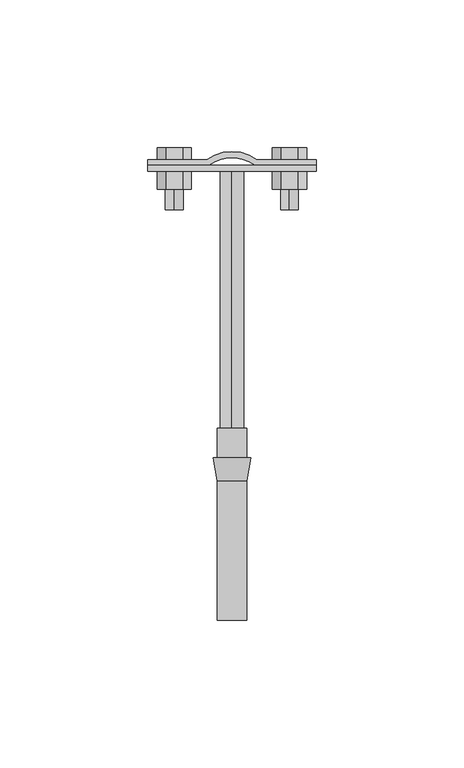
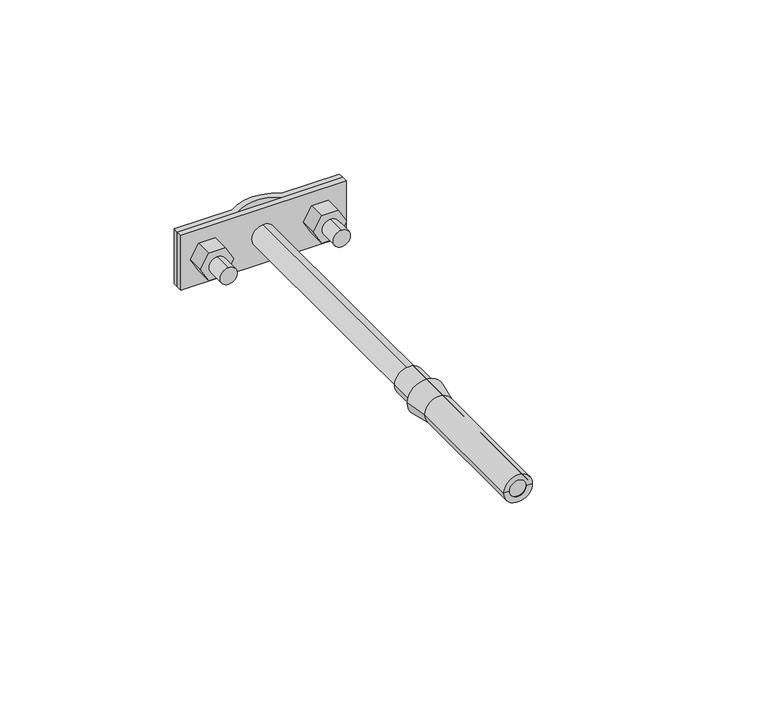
"""IFC4 building model written with IfcOpenShell, lengths in millimetres: proxy geometry, КНС_ДержательФасадный_DKC : ND2305_Горячеоцинкованная сталь_160 мм."""

from ifc_helpers import new_model, si_unit, point, frame, frame_2d, origin, origin_2d, place, context, project, spatial, polyline, circle_curve, trimmed, segment, composite_curve, outline, extrude, source, transform, mapped, element, save
from ifc_brep_helpers import plane_surface, cylinder_surface, revolved_surface, advanced_brep


def security_devices_a2ca83d2(model_context):
    return source(origin(), model_context, "Body", "SolidModel", [
        advanced_brep(
        [(6.3810583, -10.0, 0.0), (-6.3810583, -10.0, 0.0), (-5.0, -10.0, 0.0), (5.0, -10.0, 0.0), (5.0, -17.8323707, 0.0), (-5.0, -17.8323707, 0.0), (5.0, -65.0, 0.0), (-5.0, -65.0, 0.0), (3.0, -65.0, 0.0), (-3.0, -65.0, 0.0), (3.0, 0.0, 0.0), (-3.0, 0.0, 0.0), (5.0, 0.0, 0.0), (-5.0, 0.0, 0.0)],
        [
            (0, 1, circle_curve(frame((0.0, -10.0, 0.0), z_axis=(0.0, 1.0, 0.0), x_axis=(-1.0, 0.0, 0.0)), 6.3810583)),
            (1, 2),
            (2, 3, circle_curve(frame((0.0, -10.0, 0.0), z_axis=(0.0, -1.0, 0.0), x_axis=(-1.0, 0.0, 0.0)), 5.0)),
            (3, 0),
            (1, 0, circle_curve(frame((0.0, -10.0, 0.0), z_axis=(0.0, 1.0, 0.0), x_axis=(-1.0, 0.0, 0.0)), 6.3810583)),
            (3, 2, circle_curve(frame((0.0, -10.0, 0.0), z_axis=(0.0, -1.0, 0.0), x_axis=(-1.0, 0.0, 0.0)), 5.0)),
            (4, 5, circle_curve(frame((0.0, -17.8323707, 0.0), z_axis=(0.0, 1.0, 0.0), x_axis=(-1.0, 0.0, 0.0)), 5.0)),
            (5, 1),
            (0, 4),
            (5, 4, circle_curve(frame((0.0, -17.8323707, 0.0), z_axis=(0.0, 1.0, 0.0), x_axis=(-1.0, 0.0, 0.0)), 5.0)),
            (6, 7, circle_curve(frame((0.0, -65.0, 0.0), z_axis=(0.0, 1.0, 0.0), x_axis=(-1.0, 0.0, 0.0)), 5.0)),
            (7, 5),
            (4, 6),
            (7, 6, circle_curve(frame((0.0, -65.0, 0.0), z_axis=(0.0, 1.0, 0.0), x_axis=(-1.0, 0.0, 0.0)), 5.0)),
            (8, 9, circle_curve(frame((0.0, -65.0, 0.0), z_axis=(0.0, 1.0, 0.0), x_axis=(-1.0, 0.0, 0.0)), 3.0)),
            (9, 7),
            (6, 8),
            (9, 8, circle_curve(frame((0.0, -65.0, 0.0), z_axis=(0.0, 1.0, 0.0), x_axis=(-1.0, 0.0, 0.0)), 3.0)),
            (10, 11, circle_curve(frame((0.0, 0.0, 0.0), z_axis=(0.0, 1.0, 0.0), x_axis=(-1.0, 0.0, 0.0)), 3.0)),
            (11, 9),
            (8, 10),
            (11, 10, circle_curve(frame((0.0, 0.0, 0.0), z_axis=(0.0, 1.0, 0.0), x_axis=(-1.0, 0.0, 0.0)), 3.0)),
            (12, 13, circle_curve(frame((0.0, 0.0, 0.0), z_axis=(0.0, 1.0, 0.0), x_axis=(-1.0, 0.0, 0.0)), 5.0)),
            (13, 11),
            (10, 12),
            (13, 12, circle_curve(frame((0.0, 0.0, 0.0), z_axis=(0.0, 1.0, 0.0), x_axis=(-1.0, 0.0, 0.0)), 5.0)),
            (2, 13),
            (12, 3),
        ],
        [
            plane_surface(frame((0.0, -10.0, 0.0), z_axis=(0.0, 1.0, 0.0), x_axis=(-1.0, 0.0, 0.0))),
            revolved_surface(polyline([(-6.3810583, -10.0, 0.0), (-5.0, -17.8323707, 0.0)]), (0.0, 2000.0, 0.0), (0.0, -1.0, 0.0)),
            cylinder_surface(frame((0.0, 2000.0, 0.0), z_axis=(0.0, -1.0, 0.0), x_axis=(-1.0, 0.0, 0.0)), 5.0),
            plane_surface(frame((0.0, -65.0, 0.0), z_axis=(0.0, -1.0, 0.0), x_axis=(-1.0, 0.0, 0.0))),
            revolved_surface(polyline([(-3.0, -65.0, 0.0), (-3.0, 0.0, 0.0)]), (0.0, 2000.0, 0.0), (0.0, -1.0, 0.0)),
            plane_surface(frame((0.0, 0.0, 0.0), z_axis=(0.0, 1.0, 0.0), x_axis=(-1.0, 0.0, 0.0))),
        ],
        [
            (0, [[1, 2, 3, 4]]),
            (0, [[5, -4, 6, -2]]),
            (1, [[7, 8, -1, 9]]),
            (1, [[10, -9, -5, -8]]),
            (2, [[11, 12, -7, 13]]),
            (2, [[14, -13, -10, -12]]),
            (3, [[15, 16, -11, 17]]),
            (3, [[18, -17, -14, -16]]),
            (4, [[19, 20, -15, 21]]),
            (4, [[22, -21, -18, -20]]),
            (5, [[23, 24, -19, 25]]),
            (5, [[26, -25, -22, -24]]),
            (2, [[-3, 27, -23, 28]]),
            (2, [[-6, -28, -26, -27]]),
        ],
    ),
        extrude(outline(polyline([(0.0, 25.2735027), (5.0, 22.3867513), (5.0, 16.6132487), (0.0, 13.7264973), (-5.0, 16.6132487), (-5.0, 22.3867513), (0.0, 25.2735027)])), frame((0.0, 81.0, 0.0), z_axis=(0.0, 1.0, 0.0), x_axis=(0.0, 0.0, 1.0)), (0.0, 0.0, 1.0), 6.0),
        extrude(outline(polyline([(0.0, -13.7264973), (5.0, -16.6132487), (5.0, -22.3867513), (0.0, -25.2735027), (-5.0, -22.3867513), (-5.0, -16.6132487), (0.0, -13.7264973)])), frame((0.0, 81.0, 0.0), z_axis=(0.0, 1.0, 0.0), x_axis=(0.0, 0.0, 1.0)), (0.0, 0.0, 1.0), 6.0),
        extrude(outline(composite_curve([segment(trimmed(circle_curve(frame_2d((0.0, 19.5)), 3.0), [point((-3.0, 19.5))], [point((3.0, 19.5))], False, "CARTESIAN"), True, "CONTINUOUS"), segment(trimmed(circle_curve(frame_2d((0.0, 19.5)), 3.0), [point((3.0, 19.5))], [point((-3.0, 19.5))], False, "CARTESIAN"), True, "CONTINUOUS")], self_intersect=False)), frame((0.0, 74.0, 0.0), z_axis=(0.0, 1.0, 0.0), x_axis=(0.0, 0.0, 1.0)), (0.0, 0.0, 1.0), 13.0),
        extrude(outline(polyline([(0.0, 25.2735027), (5.0, 22.3867513), (5.0, 16.6132487), (0.0, 13.7264973), (-5.0, 16.6132487), (-5.0, 22.3867513), (0.0, 25.2735027)])), frame((0.0, 91.0, 0.0), z_axis=(0.0, 1.0, 0.0), x_axis=(0.0, 0.0, 1.0)), (0.0, 0.0, 1.0), 4.0),
        extrude(outline(polyline([(0.0, -13.7264973), (5.0, -16.6132487), (5.0, -22.3867513), (0.0, -25.2735027), (-5.0, -22.3867513), (-5.0, -16.6132487), (0.0, -13.7264973)])), frame((0.0, 91.0, 0.0), z_axis=(0.0, 1.0, 0.0), x_axis=(0.0, 0.0, 1.0)), (0.0, 0.0, 1.0), 4.0),
        extrude(outline(composite_curve([segment(trimmed(circle_curve(frame_2d((0.0, -19.5)), 3.0), [point((-3.0, -19.5))], [point((3.0, -19.5))], False, "CARTESIAN"), True, "CONTINUOUS"), segment(trimmed(circle_curve(frame_2d((0.0, -19.5)), 3.0), [point((3.0, -19.5))], [point((-3.0, -19.5))], False, "CARTESIAN"), True, "CONTINUOUS")], self_intersect=False)), frame((0.0, 74.0, 0.0), z_axis=(0.0, 1.0, 0.0), x_axis=(0.0, 0.0, 1.0)), (0.0, 0.0, 1.0), 13.0),
        extrude(outline(composite_curve([segment(trimmed(circle_curve(origin_2d(), 4.0), [point((-4.0, 0.0))], [point((4.0, 0.0))], False, "CARTESIAN"), True, "CONTINUOUS"), segment(trimmed(circle_curve(origin_2d(), 4.0), [point((4.0, 0.0))], [point((-4.0, 0.0))], False, "CARTESIAN"), True, "CONTINUOUS")], self_intersect=False)), frame((0.0, -65.0, 0.0), z_axis=(0.0, 1.0, 0.0), x_axis=(0.0, 0.0, 1.0)), (0.0, 0.0, 1.0), 152.0),
        extrude(outline(polyline([(-28.5, 87.0), (-28.5, 89.0), (28.5, 89.0), (28.5, 87.0), (-28.5, 87.0)])), frame((0.0, 0.0, -10.0), z_axis=(0.0, 0.0, 1.0), x_axis=(1.0, 0.0, 0.0)), (0.0, 0.0, 1.0), 20.0),
        extrude(outline(composite_curve([segment(trimmed(circle_curve(frame_2d((0.0, 78.8700945)), 14.8116376), [point((-8.5, 91.0))], [point((8.5, 91.0))], False, "CARTESIAN"), True, "CONTINUOUS"), segment(polyline([(8.5, 91.0), (28.5, 91.0), (28.5, 89.0), (7.9035116, 89.0)]), True, "CONTINUOUS"), segment(trimmed(circle_curve(frame_2d((0.0, 78.3768959)), 13.2406887), [point((7.9035116, 89.0))], [point((-7.9035116, 89.0))], True, "CARTESIAN"), True, "CONTINUOUS"), segment(polyline([(-7.9035116, 89.0), (-28.5, 89.0), (-28.5, 91.0), (-8.5, 91.0)]), True, "CONTINUOUS")], self_intersect=False)), frame((0.0, 0.0, -10.0), z_axis=(0.0, 0.0, 1.0), x_axis=(1.0, 0.0, 0.0)), (0.0, 0.0, 1.0), 20.0),
    ])


if __name__ == "__main__":
    model = new_model("IFC4")
    model_context = context("Model", 3, world=origin())
    ifc_project = project(units=[si_unit("LENGTHUNIT", "METRE", prefix="MILLI")], contexts=[model_context])
    site = spatial("IfcSite", under=ifc_project)
    building = spatial("IfcBuilding", under=site)
    placement = place(None, origin())
    security_devices_shape = security_devices_a2ca83d2(model_context)
    element("IfcBuildingElementProxy", 1, Name="КНС_ДержательФасадный_DKC : ND2305_Горячеоцинкованная сталь_160 мм", ObjectType="КНС_ДержательФасадный_DKC : ND2305_Горячеоцинкованная сталь_160 мм", at=placement, inside=building, context=model_context, shape_type="MappedRepresentation", body=[
        mapped(security_devices_shape, transform((0.0, 0.0, 0.0), x_axis=(1.0, 0.0, 0.0), y_axis=(0.0, 1.0, 0.0), z_axis=(0.0, 0.0, 1.0))),
    ])
    save(model, "model.ifc")
